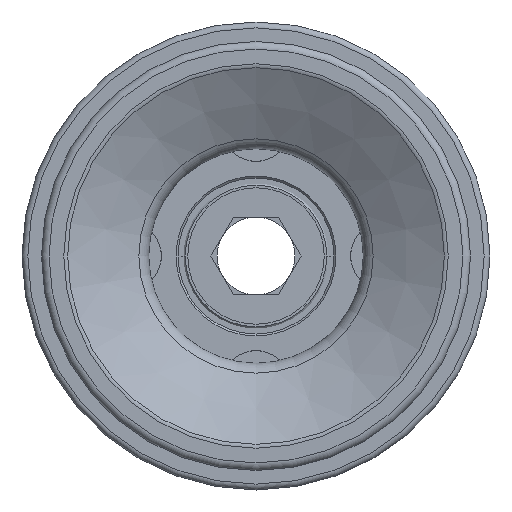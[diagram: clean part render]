
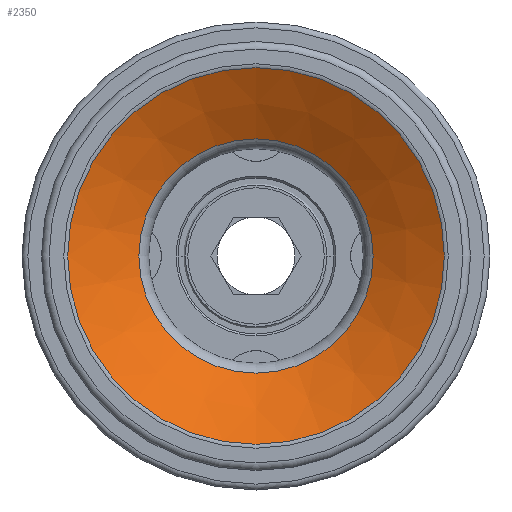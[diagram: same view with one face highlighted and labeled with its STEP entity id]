
A CAD part, front view. The second image highlights one B-rep face of the part: STEP entity #2350.
In plain terms, the highlighted conical face has half-angle 60.358 degrees and reference radius 6.005 mm.
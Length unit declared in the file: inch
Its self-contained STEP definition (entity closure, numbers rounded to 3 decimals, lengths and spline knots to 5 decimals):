
#333 = CARTESIAN_POINT ( 'NONE',  ( 36.72742, 38.17365, 0. ) ) ;
#339 = DIRECTION ( 'NONE',  ( 0., -1., 0. ) ) ;
#491 = EDGE_CURVE ( 'NONE', #1632, #1632, #2037, .T. ) ;
#496 = CARTESIAN_POINT ( 'NONE',  ( 36.72742, 38.17365, -0.23643 ) ) ;
#605 = DIRECTION ( 'NONE',  ( 0., -1., 0. ) ) ;
#762 = VERTEX_POINT ( 'NONE', #496 ) ;
#823 = AXIS2_PLACEMENT_3D ( 'NONE', #333, #1115, #2333 ) ;
#848 = DIRECTION ( 'NONE',  ( 0., 0., -1. ) ) ;
#1079 = FACE_OUTER_BOUND ( 'NONE', #1813, .T. ) ;
#1115 = DIRECTION ( 'NONE',  ( 0., -1., 0. ) ) ;
#1632 = VERTEX_POINT ( 'NONE', #3185 ) ;
#1646 = DIRECTION ( 'NONE',  ( 0., 0., -1. ) ) ;
#1813 = EDGE_LOOP ( 'NONE', ( #1911 ) ) ;
#1911 = ORIENTED_EDGE ( 'NONE', *, *, #491, .T. ) ;
#2037 = CIRCLE ( 'NONE', #2465, 0.38024 ) ;
#2249 = CIRCLE ( 'NONE', #823, 0.23643 ) ;
#2333 = DIRECTION ( 'NONE',  ( 0., 0., -1. ) ) ;
#2350 = ADVANCED_FACE ( 'NONE', ( #1079, #3072 ), #2831, .F. ) ;
#2426 = EDGE_LOOP ( 'NONE', ( #2489 ) ) ;
#2465 = AXIS2_PLACEMENT_3D ( 'NONE', #2852, #605, #848 ) ;
#2489 = ORIENTED_EDGE ( 'NONE', *, *, #2691, .F. ) ;
#2523 = AXIS2_PLACEMENT_3D ( 'NONE', #2599, #339, #1646 ) ;
#2599 = CARTESIAN_POINT ( 'NONE',  ( 36.72742, 38.17365, 0. ) ) ;
#2691 = EDGE_CURVE ( 'NONE', #762, #762, #2249, .T. ) ;
#2831 = CONICAL_SURFACE ( 'NONE', #2523, 0.23643, 1.053 ) ;
#2852 = CARTESIAN_POINT ( 'NONE',  ( 36.72742, 38.09182, 0. ) ) ;
#3072 = FACE_BOUND ( 'NONE', #2426, .T. ) ;
#3185 = CARTESIAN_POINT ( 'NONE',  ( 36.72742, 38.09182, -0.38024 ) ) ;
